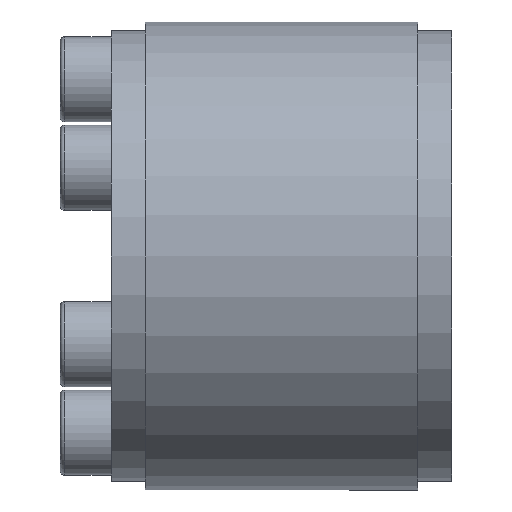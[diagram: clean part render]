
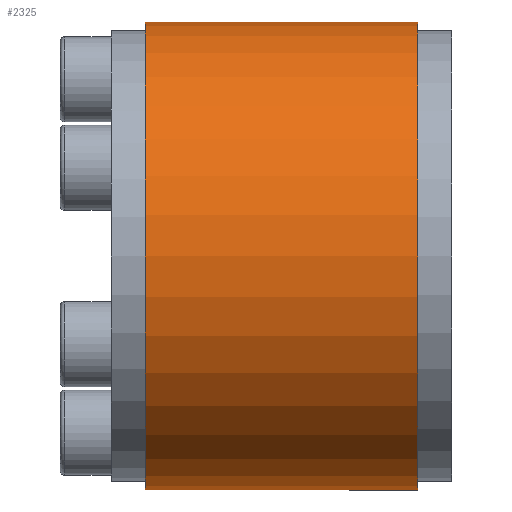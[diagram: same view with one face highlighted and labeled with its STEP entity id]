
A CAD part, left-side view. The second image highlights one B-rep face of the part: STEP entity #2325.
In plain terms, the highlighted cylindrical face has radius 27.5 mm (diameter 55 mm), a partial arc.
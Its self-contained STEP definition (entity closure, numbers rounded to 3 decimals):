
#91 = EDGE_CURVE ( 'NONE', #334, #986, #1228, .T. ) ;
#144 = AXIS2_PLACEMENT_3D ( 'NONE', #503, #1418, #284 ) ;
#190 = VERTEX_POINT ( 'NONE', #1654 ) ;
#217 = DIRECTION ( 'NONE',  ( 0., -1., 0. ) ) ;
#220 = VECTOR ( 'NONE', #1625, 1000. ) ;
#284 = DIRECTION ( 'NONE',  ( 0., 0., -1. ) ) ;
#293 = CIRCLE ( 'NONE', #1707, 27.5 ) ;
#304 = ORIENTED_EDGE ( 'NONE', *, *, #2278, .T. ) ;
#334 = VERTEX_POINT ( 'NONE', #400 ) ;
#400 = CARTESIAN_POINT ( 'NONE',  ( 0., 16., -27.5 ) ) ;
#422 = CARTESIAN_POINT ( 'NONE',  ( 0., -16., 0. ) ) ;
#451 = VECTOR ( 'NONE', #217, 1000. ) ;
#501 = CYLINDRICAL_SURFACE ( 'NONE', #144, 27.5 ) ;
#503 = CARTESIAN_POINT ( 'NONE',  ( 0., 0., 0. ) ) ;
#530 = AXIS2_PLACEMENT_3D ( 'NONE', #891, #1820, #1085 ) ;
#891 = CARTESIAN_POINT ( 'NONE',  ( 0., 16., 0. ) ) ;
#929 = ORIENTED_EDGE ( 'NONE', *, *, #1361, .F. ) ;
#945 = EDGE_CURVE ( 'NONE', #190, #1439, #1243, .T. ) ;
#986 = VERTEX_POINT ( 'NONE', #1358 ) ;
#1085 = DIRECTION ( 'NONE',  ( 0., 0., -1. ) ) ;
#1228 = LINE ( 'NONE', #1828, #220 ) ;
#1243 = LINE ( 'NONE', #1710, #451 ) ;
#1337 = EDGE_LOOP ( 'NONE', ( #2411, #304, #1648, #929 ) ) ;
#1353 = FACE_OUTER_BOUND ( 'NONE', #1337, .T. ) ;
#1358 = CARTESIAN_POINT ( 'NONE',  ( 0., -16., -27.5 ) ) ;
#1361 = EDGE_CURVE ( 'NONE', #1439, #986, #293, .T. ) ;
#1418 = DIRECTION ( 'NONE',  ( 0., -1., 0. ) ) ;
#1439 = VERTEX_POINT ( 'NONE', #1930 ) ;
#1547 = DIRECTION ( 'NONE',  ( 0., 0., -1. ) ) ;
#1625 = DIRECTION ( 'NONE',  ( 0., -1., 0. ) ) ;
#1648 = ORIENTED_EDGE ( 'NONE', *, *, #91, .T. ) ;
#1654 = CARTESIAN_POINT ( 'NONE',  ( 0., 16., 27.5 ) ) ;
#1707 = AXIS2_PLACEMENT_3D ( 'NONE', #422, #1893, #1547 ) ;
#1710 = CARTESIAN_POINT ( 'NONE',  ( 0., 0., 27.5 ) ) ;
#1820 = DIRECTION ( 'NONE',  ( 0., -1., 0. ) ) ;
#1828 = CARTESIAN_POINT ( 'NONE',  ( 0., 0., -27.5 ) ) ;
#1893 = DIRECTION ( 'NONE',  ( 0., -1., 0. ) ) ;
#1930 = CARTESIAN_POINT ( 'NONE',  ( 0., -16., 27.5 ) ) ;
#2052 = CIRCLE ( 'NONE', #530, 27.5 ) ;
#2278 = EDGE_CURVE ( 'NONE', #190, #334, #2052, .T. ) ;
#2325 = ADVANCED_FACE ( 'NONE', ( #1353 ), #501, .T. ) ;
#2411 = ORIENTED_EDGE ( 'NONE', *, *, #945, .F. ) ;
